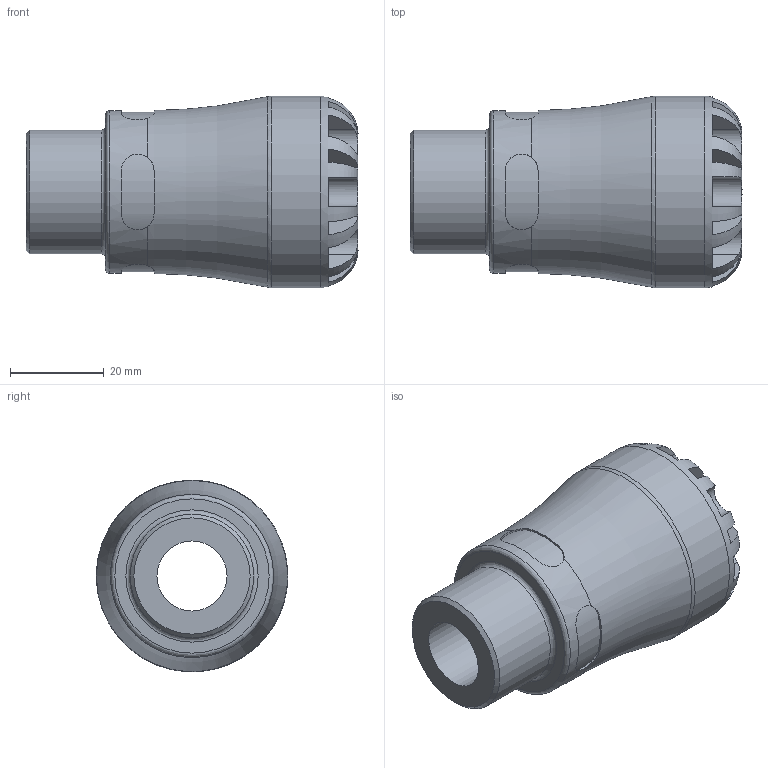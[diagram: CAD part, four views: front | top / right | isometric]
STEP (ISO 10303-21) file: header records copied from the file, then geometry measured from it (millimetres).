
FILE_DESCRIPTION(/* description */ ('PLASSON MALE ADAPTOR 20X3/4" SERIES 1'),/* implementation_level */ '2;1');
FILE_NAME(/* name */ 'C:\Dropbox\KIMPROJECTS-Inventor\99-16-3568-Processing\S1\1002\100200020007_190200020007.ipt.stp',/* time_stamp */ '2017-07-27T14:39:19+03:00',/* author */ ('KIM'),/* organization */ (''),/* preprocessor_version */ 'ST-DEVELOPER v15.6',/* originating_system */ 'Autodesk Inventor 2015',/* authorisation */ '');
FILE_SCHEMA (('AUTOMOTIVE_DESIGN { 1 0 10303 214 3 1 1 }'));
Length unit declared in the file: millimetre
Products named in the file (1): 100200020007_190200020007
Bounding box: 71 x 41 x 41 mm (x, y, z)
Volume: 48102.7 mm3; surface area: 14503.3 mm2
Topology: 1 solids, 1 shells, 100 faces, 257 edges, 161 vertices
Faces by surface type: plane 60, cylinder 33, torus 5, cone 2
Full cylindrical faces by diameter (mm): 15 x1, 20 x1, 26.441 x1, 34.85 x1, 41 x1
Entity records: 3792 total; most frequent: CARTESIAN_POINT 1473, ORIENTED_EDGE 484, DIRECTION 462, EDGE_CURVE 242, AXIS2_PLACEMENT_3D 191, VERTEX_POINT 158, EDGE_LOOP 116, FACE_OUTER_BOUND 100
